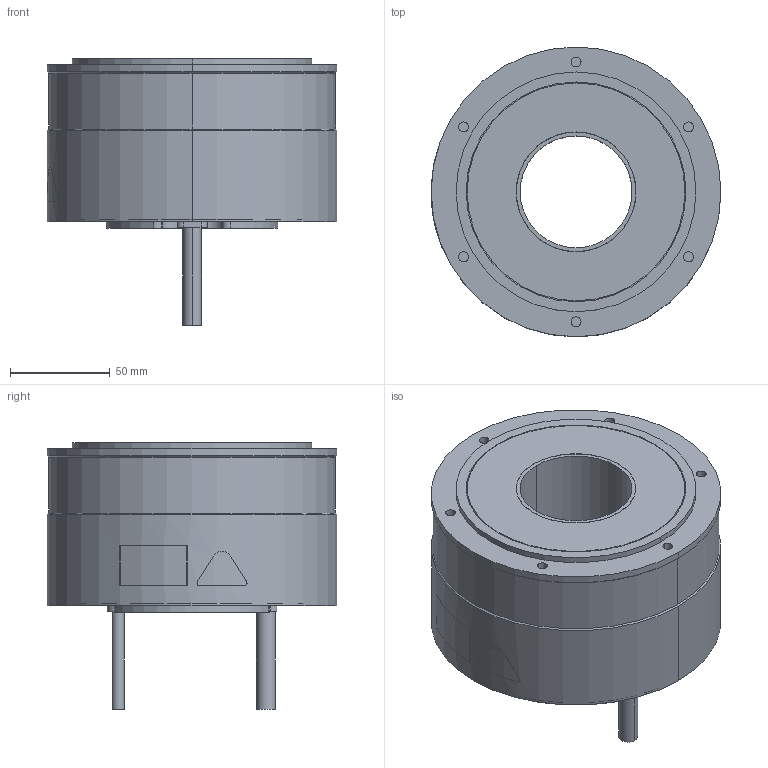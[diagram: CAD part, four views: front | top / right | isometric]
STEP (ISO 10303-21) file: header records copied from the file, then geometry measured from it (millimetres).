
FILE_DESCRIPTION (( 'STEP AP203' ), '1' );
FILE_NAME ('sgm7d_06j_c5_.STEP', '2016-02-23T01:30:36', ( '' ), ( '' ), 'SwSTEP 2.0', 'SolidWorks 2010', '' );
FILE_SCHEMA (( 'CONFIG_CONTROL_DESIGN' ));
Length unit declared in the file: millimetre
Products named in the file (1): sgm7d_06j_c5_
Bounding box: 145.06 x 145 x 133.6 mm (x, y, z)
Volume: 1087390.2 mm3; surface area: 90256.3 mm2
Topology: 1 solids, 1 shells, 170 faces, 397 edges, 262 vertices
Faces by surface type: cylinder 105, plane 56, bspline 5, cone 4
Entity records: 5290 total; most frequent: CARTESIAN_POINT 1145, DIRECTION 925, ORIENTED_EDGE 794, EDGE_CURVE 397, AXIS2_PLACEMENT_3D 378, VERTEX_POINT 262, CIRCLE 212, EDGE_LOOP 205
